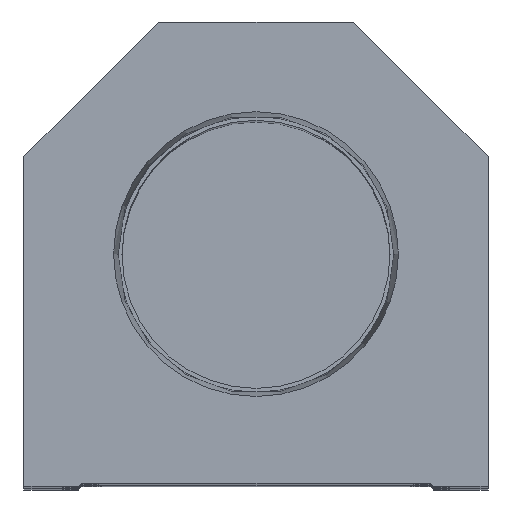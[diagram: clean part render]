
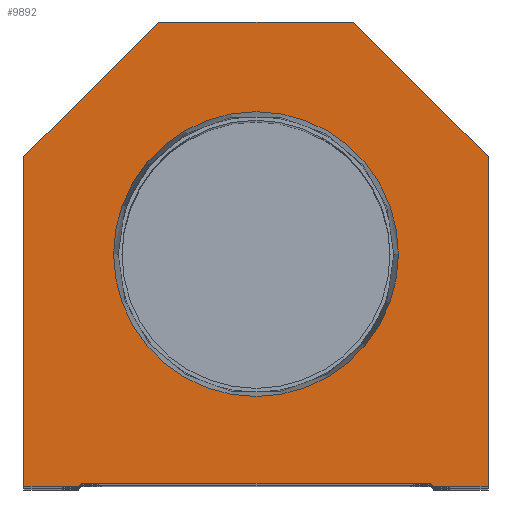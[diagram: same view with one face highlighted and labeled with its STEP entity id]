
A CAD part, top view. The second image highlights one B-rep face of the part: STEP entity #9892.
In plain terms, the highlighted planar face has unit normal (0, 0, 1).
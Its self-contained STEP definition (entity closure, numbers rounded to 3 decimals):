
#111 = CARTESIAN_POINT ( 'NONE',  ( 29.1, 0., 0. ) ) ;
#124 = VECTOR ( 'NONE', #5412, 1000. ) ;
#268 = CARTESIAN_POINT ( 'NONE',  ( -38.1, 54.1, 0. ) ) ;
#496 = CARTESIAN_POINT ( 'NONE',  ( -23.374, 38.1, 0. ) ) ;
#675 = EDGE_CURVE ( 'NONE', #5510, #865, #923, .T. ) ;
#778 = ORIENTED_EDGE ( 'NONE', *, *, #15884, .T. ) ;
#865 = VERTEX_POINT ( 'NONE', #15964 ) ;
#923 = CIRCLE ( 'NONE', #14974, 23.374 ) ;
#1007 = LINE ( 'NONE', #4455, #9155 ) ;
#1196 = DIRECTION ( 'NONE',  ( -0.707, -0.707, 0. ) ) ;
#1257 = DIRECTION ( 'NONE',  ( 1., 0., 0. ) ) ;
#1315 = LINE ( 'NONE', #8172, #21413 ) ;
#1422 = DIRECTION ( 'NONE',  ( 0., 1., 0. ) ) ;
#1869 = ORIENTED_EDGE ( 'NONE', *, *, #11444, .T. ) ;
#2018 = DIRECTION ( 'NONE',  ( 1., 0., 0. ) ) ;
#2297 = DIRECTION ( 'NONE',  ( 0.707, -0.707, 0. ) ) ;
#2349 = CARTESIAN_POINT ( 'NONE',  ( 0., 38.1, 0. ) ) ;
#2432 = LINE ( 'NONE', #7634, #12278 ) ;
#2482 = CARTESIAN_POINT ( 'NONE',  ( -14.55, 14.55, 0. ) ) ;
#2740 = PLANE ( 'NONE',  #4389 ) ;
#3151 = EDGE_CURVE ( 'NONE', #18683, #11334, #2432, .T. ) ;
#3605 = EDGE_LOOP ( 'NONE', ( #16004, #11079 ) ) ;
#3669 = EDGE_LOOP ( 'NONE', ( #6430, #13424, #1869, #8094, #5602, #8896, #10321, #778, #19577, #12381 ) ) ;
#3694 = AXIS2_PLACEMENT_3D ( 'NONE', #9289, #13990, #5642 ) ;
#3968 = CARTESIAN_POINT ( 'NONE',  ( 28.6, 0.5, 0. ) ) ;
#4194 = LINE ( 'NONE', #18326, #14213 ) ;
#4389 = AXIS2_PLACEMENT_3D ( 'NONE', #12743, #10675, #17364 ) ;
#4455 = CARTESIAN_POINT ( 'NONE',  ( 38.1, 54.1, 0. ) ) ;
#4698 = VECTOR ( 'NONE', #20197, 1000. ) ;
#5102 = EDGE_CURVE ( 'NONE', #17724, #5679, #1007, .T. ) ;
#5412 = DIRECTION ( 'NONE',  ( 0., -1., 0. ) ) ;
#5510 = VERTEX_POINT ( 'NONE', #496 ) ;
#5549 = LINE ( 'NONE', #16973, #4698 ) ;
#5602 = ORIENTED_EDGE ( 'NONE', *, *, #7740, .T. ) ;
#5642 = DIRECTION ( 'NONE',  ( 1., 0., 0. ) ) ;
#5679 = VERTEX_POINT ( 'NONE', #20091 ) ;
#5784 = LINE ( 'NONE', #17753, #17198 ) ;
#5928 = FACE_BOUND ( 'NONE', #3605, .T. ) ;
#6290 = VERTEX_POINT ( 'NONE', #9887 ) ;
#6430 = ORIENTED_EDGE ( 'NONE', *, *, #3151, .T. ) ;
#6667 = CARTESIAN_POINT ( 'NONE',  ( -29.1, 0., 0. ) ) ;
#6901 = VECTOR ( 'NONE', #1257, 1000. ) ;
#7361 = FACE_OUTER_BOUND ( 'NONE', #3669, .T. ) ;
#7634 = CARTESIAN_POINT ( 'NONE',  ( -28.6, 0., 0. ) ) ;
#7740 = EDGE_CURVE ( 'NONE', #10826, #17034, #5549, .T. ) ;
#8094 = ORIENTED_EDGE ( 'NONE', *, *, #21216, .T. ) ;
#8164 = EDGE_CURVE ( 'NONE', #19323, #18683, #10144, .T. ) ;
#8172 = CARTESIAN_POINT ( 'NONE',  ( 38.1, 0., 0. ) ) ;
#8896 = ORIENTED_EDGE ( 'NONE', *, *, #14777, .T. ) ;
#9155 = VECTOR ( 'NONE', #17832, 1000. ) ;
#9288 = DIRECTION ( 'NONE',  ( 1., 0., 0. ) ) ;
#9289 = CARTESIAN_POINT ( 'NONE',  ( 0., 38.1, 0. ) ) ;
#9334 = VERTEX_POINT ( 'NONE', #3968 ) ;
#9539 = LINE ( 'NONE', #16114, #6901 ) ;
#9887 = CARTESIAN_POINT ( 'NONE',  ( -28.6, 0.5, 0. ) ) ;
#9892 = ADVANCED_FACE ( 'NONE', ( #5928, #7361 ), #2740, .T. ) ;
#10144 = LINE ( 'NONE', #10470, #124 ) ;
#10231 = EDGE_CURVE ( 'NONE', #20180, #19323, #4194, .T. ) ;
#10321 = ORIENTED_EDGE ( 'NONE', *, *, #5102, .T. ) ;
#10470 = CARTESIAN_POINT ( 'NONE',  ( -38.1, 0., 0. ) ) ;
#10675 = DIRECTION ( 'NONE',  ( 0., 0., 1. ) ) ;
#10826 = VERTEX_POINT ( 'NONE', #111 ) ;
#11079 = ORIENTED_EDGE ( 'NONE', *, *, #675, .F. ) ;
#11134 = CARTESIAN_POINT ( 'NONE',  ( 38.1, 54.1, 0. ) ) ;
#11334 = VERTEX_POINT ( 'NONE', #6667 ) ;
#11444 = EDGE_CURVE ( 'NONE', #6290, #9334, #9539, .T. ) ;
#11858 = VECTOR ( 'NONE', #14599, 1000. ) ;
#12278 = VECTOR ( 'NONE', #9288, 1000. ) ;
#12381 = ORIENTED_EDGE ( 'NONE', *, *, #8164, .T. ) ;
#12743 = CARTESIAN_POINT ( 'NONE',  ( 0., 0., 0. ) ) ;
#13165 = CIRCLE ( 'NONE', #3694, 23.374 ) ;
#13424 = ORIENTED_EDGE ( 'NONE', *, *, #13477, .T. ) ;
#13477 = EDGE_CURVE ( 'NONE', #11334, #6290, #16021, .T. ) ;
#13990 = DIRECTION ( 'NONE',  ( 0., 0., 1. ) ) ;
#14213 = VECTOR ( 'NONE', #1196, 1000. ) ;
#14599 = DIRECTION ( 'NONE',  ( 0.707, 0.707, 0. ) ) ;
#14777 = EDGE_CURVE ( 'NONE', #17034, #17724, #1315, .T. ) ;
#14974 = AXIS2_PLACEMENT_3D ( 'NONE', #2349, #17091, #2018 ) ;
#15363 = CARTESIAN_POINT ( 'NONE',  ( 38.1, 0., 0. ) ) ;
#15884 = EDGE_CURVE ( 'NONE', #5679, #20180, #5784, .T. ) ;
#15964 = CARTESIAN_POINT ( 'NONE',  ( 23.374, 38.1, 0. ) ) ;
#16004 = ORIENTED_EDGE ( 'NONE', *, *, #21018, .F. ) ;
#16021 = LINE ( 'NONE', #2482, #11858 ) ;
#16114 = CARTESIAN_POINT ( 'NONE',  ( -28.6, 0.5, 0. ) ) ;
#16973 = CARTESIAN_POINT ( 'NONE',  ( 28.6, 0., 0. ) ) ;
#17034 = VERTEX_POINT ( 'NONE', #15363 ) ;
#17091 = DIRECTION ( 'NONE',  ( 0., 0., 1. ) ) ;
#17198 = VECTOR ( 'NONE', #19181, 1000. ) ;
#17364 = DIRECTION ( 'NONE',  ( 1., 0., 0. ) ) ;
#17724 = VERTEX_POINT ( 'NONE', #11134 ) ;
#17753 = CARTESIAN_POINT ( 'NONE',  ( 16., 76.2, 0. ) ) ;
#17832 = DIRECTION ( 'NONE',  ( -0.707, 0.707, 0. ) ) ;
#18326 = CARTESIAN_POINT ( 'NONE',  ( -38.1, 54.1, 0. ) ) ;
#18418 = VECTOR ( 'NONE', #2297, 1000. ) ;
#18683 = VERTEX_POINT ( 'NONE', #19166 ) ;
#19148 = CARTESIAN_POINT ( 'NONE',  ( -16., 76.2, 0. ) ) ;
#19166 = CARTESIAN_POINT ( 'NONE',  ( -38.1, 0., 0. ) ) ;
#19181 = DIRECTION ( 'NONE',  ( -1., 0., 0. ) ) ;
#19323 = VERTEX_POINT ( 'NONE', #268 ) ;
#19577 = ORIENTED_EDGE ( 'NONE', *, *, #10231, .T. ) ;
#20091 = CARTESIAN_POINT ( 'NONE',  ( 16., 76.2, 0. ) ) ;
#20180 = VERTEX_POINT ( 'NONE', #19148 ) ;
#20197 = DIRECTION ( 'NONE',  ( 1., 0., 0. ) ) ;
#20689 = CARTESIAN_POINT ( 'NONE',  ( 14.55, 14.55, 0. ) ) ;
#20920 = LINE ( 'NONE', #20689, #18418 ) ;
#21018 = EDGE_CURVE ( 'NONE', #865, #5510, #13165, .T. ) ;
#21216 = EDGE_CURVE ( 'NONE', #9334, #10826, #20920, .T. ) ;
#21413 = VECTOR ( 'NONE', #1422, 1000. ) ;
